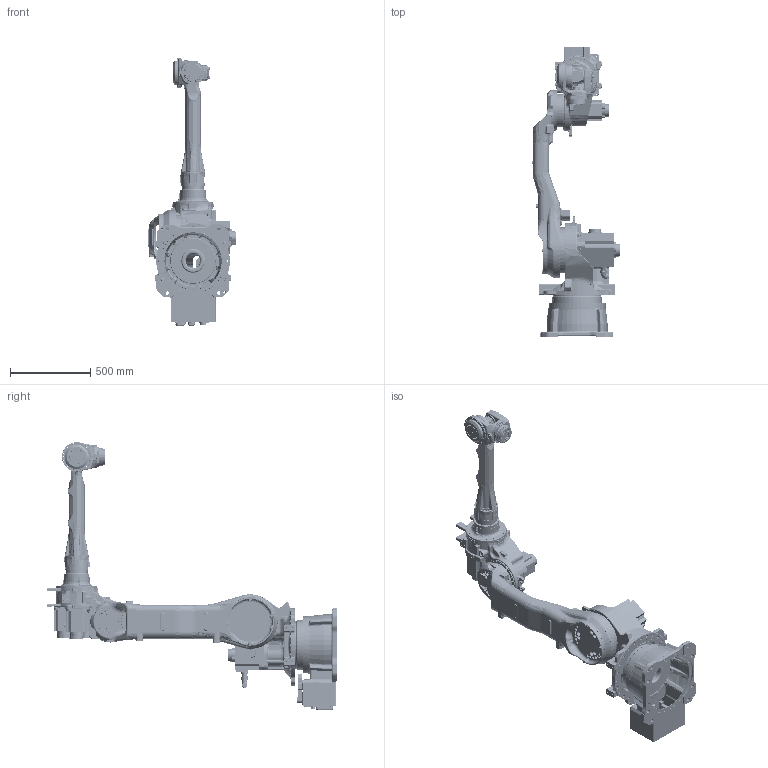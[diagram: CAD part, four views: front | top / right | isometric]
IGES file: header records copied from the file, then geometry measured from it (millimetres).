
Start section: SolidWorks IGES file using analytic representation for surfaces
Global section: file name: C:\temp\MPL80\MPL80.IGS; native system: SolidWorks 2008; preprocessor: SolidWorks 2008; author: jositz; date: 100219.100252; units: millimetre
Bounding box: 543 x 1805 x 1665.2 mm (x, y, z)
Surface area: 7175302 mm2 (no closed solid volume)
Topology: 0 solids, 0 shells, 10643 faces, 148145 edges, 147538 vertices
Faces by surface type: revolution 5372, bspline 5271
